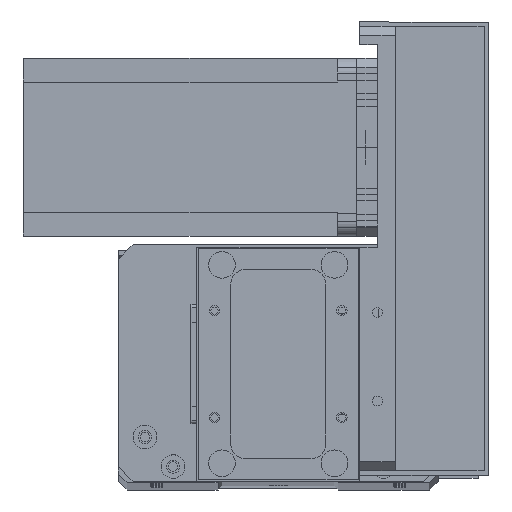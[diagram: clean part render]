
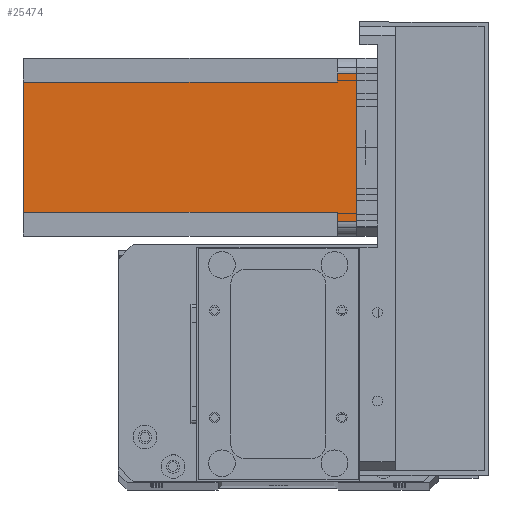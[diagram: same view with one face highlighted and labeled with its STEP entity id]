
A CAD part, top view. The second image highlights one B-rep face of the part: STEP entity #25474.
In plain terms, the highlighted planar face has unit normal (0, 0, 1) as drawn and (0, 1, 0) by its records, which use the part's own axes.
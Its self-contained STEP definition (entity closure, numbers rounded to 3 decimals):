
#596 = LINE ( 'NONE', #10704, #18884 ) ;
#922 = EDGE_CURVE ( 'NONE', #21806, #8696, #13639, .T. ) ;
#964 = EDGE_LOOP ( 'NONE', ( #28479, #12902, #25248, #25448, #19279, #19265, #14097, #17979 ) ) ;
#1065 = LINE ( 'NONE', #18798, #6686 ) ;
#2098 = CARTESIAN_POINT ( 'NONE',  ( 55., 60., -6.5 ) ) ;
#3073 = VECTOR ( 'NONE', #7704, 1000. ) ;
#3356 = CARTESIAN_POINT ( 'NONE',  ( 8., 60., -112.5 ) ) ;
#3898 = VECTOR ( 'NONE', #7719, 1000. ) ;
#4475 = DIRECTION ( 'NONE',  ( 0., 1., 0. ) ) ;
#5304 = CARTESIAN_POINT ( 'NONE',  ( 0., 60., 0. ) ) ;
#5378 = LINE ( 'NONE', #26820, #3898 ) ;
#5744 = LINE ( 'NONE', #23241, #24048 ) ;
#6686 = VECTOR ( 'NONE', #6843, 1000. ) ;
#6843 = DIRECTION ( 'NONE',  ( -1., 0., 0. ) ) ;
#7231 = CARTESIAN_POINT ( 'NONE',  ( 5., 60., -112.5 ) ) ;
#7704 = DIRECTION ( 'NONE',  ( -1., 0., 0. ) ) ;
#7719 = DIRECTION ( 'NONE',  ( 0., 0., -1. ) ) ;
#8031 = EDGE_CURVE ( 'NONE', #11362, #21806, #1065, .T. ) ;
#8072 = LINE ( 'NONE', #12186, #20009 ) ;
#8696 = VERTEX_POINT ( 'NONE', #11805 ) ;
#9309 = CARTESIAN_POINT ( 'NONE',  ( 8., 60., -6.5 ) ) ;
#9446 = LINE ( 'NONE', #5304, #3073 ) ;
#9658 = VERTEX_POINT ( 'NONE', #27927 ) ;
#10704 = CARTESIAN_POINT ( 'NONE',  ( 52., 60., -112.5 ) ) ;
#11362 = VERTEX_POINT ( 'NONE', #9309 ) ;
#11707 = CARTESIAN_POINT ( 'NONE',  ( 5., 60., -6.5 ) ) ;
#11805 = CARTESIAN_POINT ( 'NONE',  ( 5., 60., 0. ) ) ;
#11972 = CARTESIAN_POINT ( 'NONE',  ( 55., 60., 0. ) ) ;
#12117 = AXIS2_PLACEMENT_3D ( 'NONE', #28281, #4475, #21157 ) ;
#12186 = CARTESIAN_POINT ( 'NONE',  ( 0., 60., -112.5 ) ) ;
#12902 = ORIENTED_EDGE ( 'NONE', *, *, #13276, .T. ) ;
#13276 = EDGE_CURVE ( 'NONE', #22471, #17031, #15856, .T. ) ;
#13639 = LINE ( 'NONE', #7231, #19966 ) ;
#14097 = ORIENTED_EDGE ( 'NONE', *, *, #8031, .T. ) ;
#14405 = DIRECTION ( 'NONE',  ( 0., 0., 1. ) ) ;
#14555 = DIRECTION ( 'NONE',  ( -1., 0., 0. ) ) ;
#15856 = LINE ( 'NONE', #16231, #29347 ) ;
#15954 = CARTESIAN_POINT ( 'NONE',  ( 52., 60., -112.5 ) ) ;
#16149 = VERTEX_POINT ( 'NONE', #3356 ) ;
#16231 = CARTESIAN_POINT ( 'NONE',  ( 55., 60., -112.5 ) ) ;
#17031 = VERTEX_POINT ( 'NONE', #2098 ) ;
#17072 = FACE_OUTER_BOUND ( 'NONE', #964, .T. ) ;
#17979 = ORIENTED_EDGE ( 'NONE', *, *, #922, .T. ) ;
#18060 = VERTEX_POINT ( 'NONE', #15954 ) ;
#18629 = DIRECTION ( 'NONE',  ( 0., 0., -1. ) ) ;
#18798 = CARTESIAN_POINT ( 'NONE',  ( 8., 60., -6.5 ) ) ;
#18884 = VECTOR ( 'NONE', #24972, 1000. ) ;
#19265 = ORIENTED_EDGE ( 'NONE', *, *, #21066, .F. ) ;
#19279 = ORIENTED_EDGE ( 'NONE', *, *, #19760, .T. ) ;
#19760 = EDGE_CURVE ( 'NONE', #18060, #16149, #8072, .T. ) ;
#19966 = VECTOR ( 'NONE', #14405, 1000. ) ;
#20009 = VECTOR ( 'NONE', #14555, 1000. ) ;
#20069 = EDGE_CURVE ( 'NONE', #18060, #9658, #596, .T. ) ;
#21048 = PLANE ( 'NONE',  #12117 ) ;
#21066 = EDGE_CURVE ( 'NONE', #11362, #16149, #5378, .T. ) ;
#21157 = DIRECTION ( 'NONE',  ( 0., 0., 1. ) ) ;
#21806 = VERTEX_POINT ( 'NONE', #11707 ) ;
#22007 = EDGE_CURVE ( 'NONE', #22471, #8696, #9446, .T. ) ;
#22471 = VERTEX_POINT ( 'NONE', #11972 ) ;
#23241 = CARTESIAN_POINT ( 'NONE',  ( 52., 60., -6.5 ) ) ;
#24048 = VECTOR ( 'NONE', #25672, 1000. ) ;
#24972 = DIRECTION ( 'NONE',  ( 0., 0., 1. ) ) ;
#25248 = ORIENTED_EDGE ( 'NONE', *, *, #28882, .F. ) ;
#25448 = ORIENTED_EDGE ( 'NONE', *, *, #20069, .F. ) ;
#25474 = ADVANCED_FACE ( 'NONE', ( #17072 ), #21048, .T. ) ;
#25672 = DIRECTION ( 'NONE',  ( 1., 0., 0. ) ) ;
#26820 = CARTESIAN_POINT ( 'NONE',  ( 8., 60., -112.5 ) ) ;
#27927 = CARTESIAN_POINT ( 'NONE',  ( 52., 60., -6.5 ) ) ;
#28281 = CARTESIAN_POINT ( 'NONE',  ( 0., 60., -112.5 ) ) ;
#28479 = ORIENTED_EDGE ( 'NONE', *, *, #22007, .F. ) ;
#28882 = EDGE_CURVE ( 'NONE', #9658, #17031, #5744, .T. ) ;
#29347 = VECTOR ( 'NONE', #18629, 1000. ) ;
